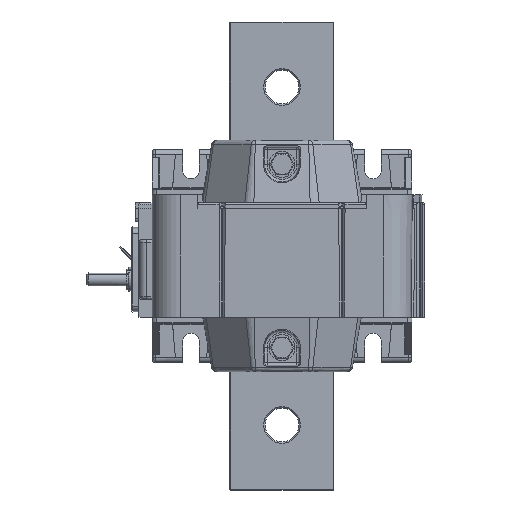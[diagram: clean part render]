
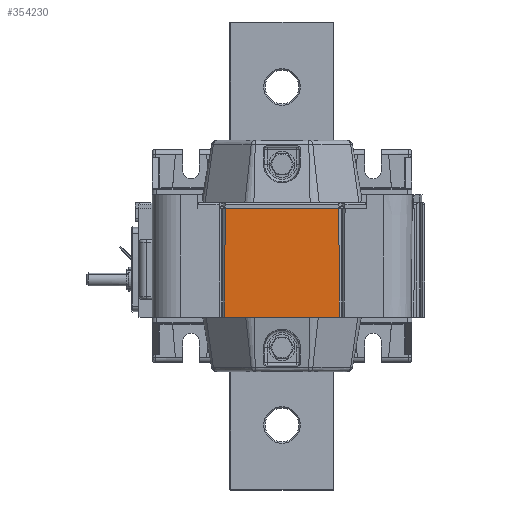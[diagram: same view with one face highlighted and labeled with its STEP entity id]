
A CAD part, left-side view. The second image highlights one B-rep face of the part: STEP entity #354230.
In plain terms, the highlighted planar face has unit normal (-1, 0, -0.009).
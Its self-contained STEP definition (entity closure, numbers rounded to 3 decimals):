
#205620=CARTESIAN_POINT('',(-49.264,23.425,
-7.85));
#205630=VERTEX_POINT('',#205620);
#205660=CARTESIAN_POINT('',(-49.264,0.,-7.85));
#205670=DIRECTION('',(0.,-1.,0.));
#205680=VECTOR('',#205670,1.);
#205690=LINE('',#205660,#205680);
#205700=CARTESIAN_POINT('',(-49.264,-20.904,
-7.85));
#205710=VERTEX_POINT('',#205700);
#205720=EDGE_CURVE('',#205630,#205710,#205690,.T.);
#353630=CARTESIAN_POINT('',(-49.628,23.06,
33.95));
#353640=VERTEX_POINT('',#353630);
#353670=CARTESIAN_POINT('',(-49.628,23.06,33.95));
#353680=DIRECTION('',(0.009,0.009,
-1.));
#353690=VECTOR('',#353680,1.);
#353700=LINE('',#353670,#353690);
#353710=EDGE_CURVE('',#353640,#205630,#353700,.T.);
#354000=CARTESIAN_POINT('',(-49.628,33.81,33.95));
#354010=DIRECTION('',(-1.,0.,-0.009));
#354020=DIRECTION('',(0.,1.,0.));
#354030=AXIS2_PLACEMENT_3D('',#354000,#354010,#354020);
#354040=PLANE('',#354030);
#354050=CARTESIAN_POINT('',(-49.628,0.,33.95));
#354060=DIRECTION('',(0.,1.,0.));
#354070=VECTOR('',#354060,1.);
#354080=LINE('',#354050,#354070);
#354090=CARTESIAN_POINT('',(-49.628,-20.54,33.95));
#354100=VERTEX_POINT('',#354090);
#354110=EDGE_CURVE('',#354100,#353640,#354080,.T.);
#354120=ORIENTED_EDGE('',*,*,#354110,.T.);
#354130=CARTESIAN_POINT('',(-49.628,-20.54,33.95));
#354140=DIRECTION('',(-0.009,0.009,
1.));
#354150=VECTOR('',#354140,1.);
#354160=LINE('',#354130,#354150);
#354170=EDGE_CURVE('',#205710,#354100,#354160,.T.);
#354180=ORIENTED_EDGE('',*,*,#354170,.T.);
#354190=ORIENTED_EDGE('',*,*,#205720,.T.);
#354200=ORIENTED_EDGE('',*,*,#353710,.T.);
#354210=EDGE_LOOP('',(#354200,#354190,#354180,#354120));
#354220=FACE_OUTER_BOUND('',#354210,.T.);
#354230=ADVANCED_FACE('',(#354220),#354040,.T.);
